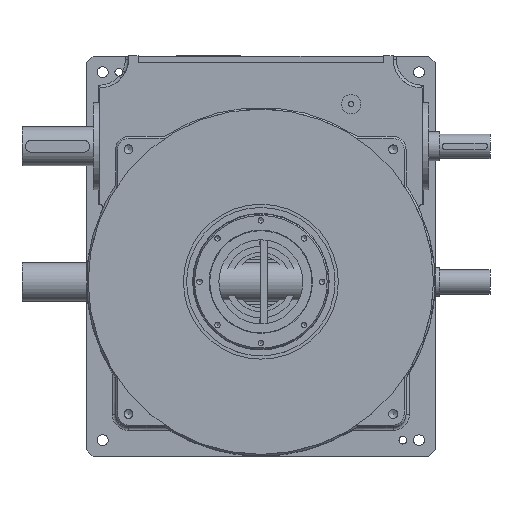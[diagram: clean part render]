
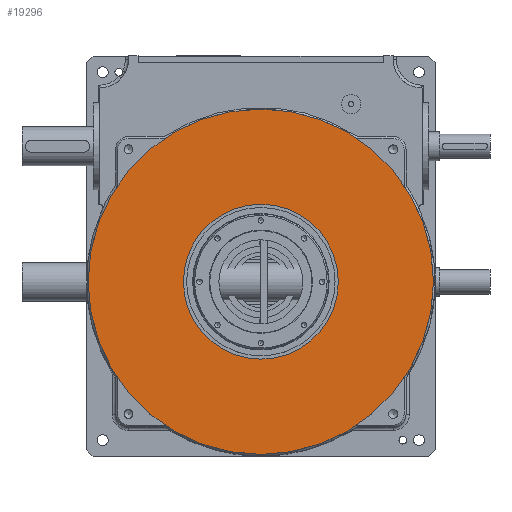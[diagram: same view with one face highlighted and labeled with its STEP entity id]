
A CAD part, top view. The second image highlights one B-rep face of the part: STEP entity #19296.
In plain terms, the highlighted planar face has unit normal (0, 0, 1).
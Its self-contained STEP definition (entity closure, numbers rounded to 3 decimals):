
#19296 = ADVANCED_FACE( '', ( #38567, #38568 ), #38569, .F. );
#38567 = FACE_OUTER_BOUND( '', #45204, .T. );
#38568 = FACE_BOUND( '', #45205, .T. );
#38569 = PLANE( '', #45206 );
#45204 = EDGE_LOOP( '', ( #54886 ) );
#45205 = EDGE_LOOP( '', ( #54887 ) );
#45206 = AXIS2_PLACEMENT_3D( '', #54888, #54889, #54890 );
#54886 = ORIENTED_EDGE( '', *, *, #76040, .F. );
#54887 = ORIENTED_EDGE( '', *, *, #76041, .T. );
#54888 = CARTESIAN_POINT( '', ( -120., 0., 38.3 ) );
#54889 = DIRECTION( '', ( 0., 0., -1. ) );
#54890 = DIRECTION( '', ( -1., 0., 0. ) );
#76040 = EDGE_CURVE( '', #80795, #80795, #80796, .T. );
#76041 = EDGE_CURVE( '', #80797, #80797, #80798, .T. );
#80795 = VERTEX_POINT( '', #80869 );
#80796 = CIRCLE( '', #80870, 267.5 );
#80797 = VERTEX_POINT( '', #80871 );
#80798 = CIRCLE( '', #80872, 120. );
#80869 = CARTESIAN_POINT( '', ( -267.5, 0., 38.3 ) );
#80870 = AXIS2_PLACEMENT_3D( '', #80957, #80958, #80959 );
#80871 = CARTESIAN_POINT( '', ( -120., 0., 38.3 ) );
#80872 = AXIS2_PLACEMENT_3D( '', #80960, #80961, #80962 );
#80957 = CARTESIAN_POINT( '', ( 0., 0., 38.3 ) );
#80958 = DIRECTION( '', ( 0., 0., -1. ) );
#80959 = DIRECTION( '', ( -1., 0., 0. ) );
#80960 = CARTESIAN_POINT( '', ( 0., 0., 38.3 ) );
#80961 = DIRECTION( '', ( 0., 0., -1. ) );
#80962 = DIRECTION( '', ( -1., 0., 0. ) );
